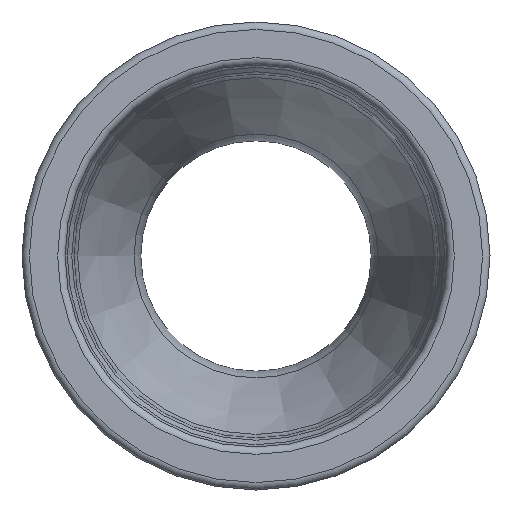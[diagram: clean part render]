
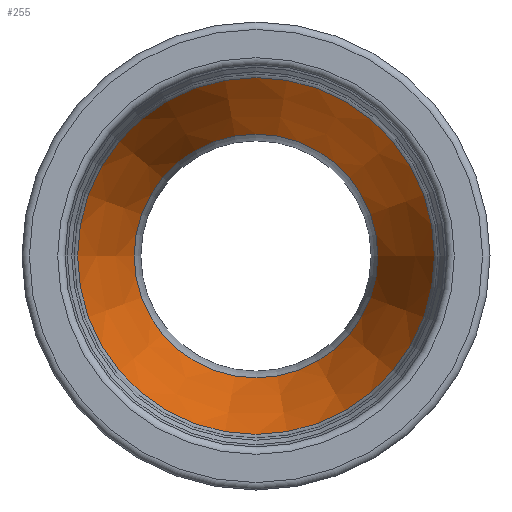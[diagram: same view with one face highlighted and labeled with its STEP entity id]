
A CAD part, left-side view. The second image highlights one B-rep face of the part: STEP entity #255.
In plain terms, the highlighted conical face has half-angle 19.976 degrees and reference radius 20 mm.
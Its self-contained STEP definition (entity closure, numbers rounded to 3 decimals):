
#24=CONICAL_SURFACE('',#294,20.,19.976);
#37=FACE_BOUND('',#95,.T.);
#60=FACE_OUTER_BOUND('',#94,.T.);
#94=EDGE_LOOP('',(#209));
#95=EDGE_LOOP('',(#210));
#130=CIRCLE('',#293,16.402);
#131=CIRCLE('',#295,24.019);
#153=VERTEX_POINT('',#446);
#154=VERTEX_POINT('',#449);
#176=EDGE_CURVE('',#153,#153,#130,.T.);
#177=EDGE_CURVE('',#154,#154,#131,.T.);
#209=ORIENTED_EDGE('',*,*,#177,.F.);
#210=ORIENTED_EDGE('',*,*,#176,.F.);
#255=ADVANCED_FACE('',(#60,#37),#24,.F.);
#293=AXIS2_PLACEMENT_3D('',#447,#364,#365);
#294=AXIS2_PLACEMENT_3D('',#448,#366,#367);
#295=AXIS2_PLACEMENT_3D('',#450,#368,#369);
#364=DIRECTION('center_axis',(-1.,0.,0.));
#365=DIRECTION('ref_axis',(0.,-1.,0.));
#366=DIRECTION('center_axis',(-1.,0.,0.));
#367=DIRECTION('ref_axis',(0.,1.,0.));
#368=DIRECTION('center_axis',(1.,0.,0.));
#369=DIRECTION('ref_axis',(0.,-1.,0.));
#446=CARTESIAN_POINT('',(89.698,16.402,0.));
#447=CARTESIAN_POINT('Origin',(89.698,0.,0.));
#448=CARTESIAN_POINT('Origin',(79.801,0.,0.));
#449=CARTESIAN_POINT('',(68.745,24.019,0.));
#450=CARTESIAN_POINT('Origin',(68.745,0.,0.));
